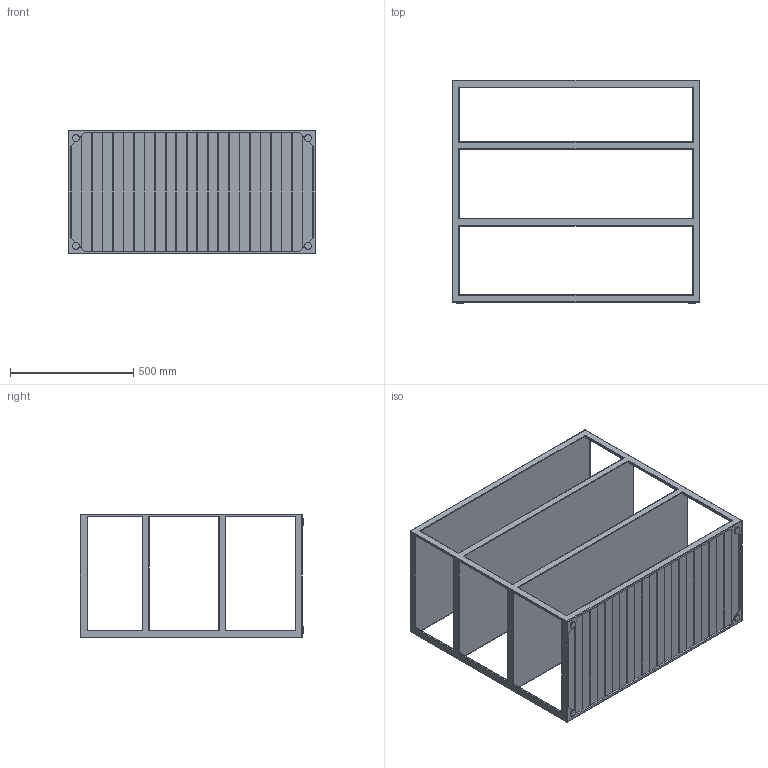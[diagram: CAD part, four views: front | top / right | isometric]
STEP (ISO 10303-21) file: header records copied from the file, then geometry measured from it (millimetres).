
FILE_DESCRIPTION(/* description */ (''),/* implementation_level */ '2;1');
FILE_NAME(/* name */ 'C:\INVENTOR\Workspace\# ARKITEKT FILER\Open Kitchen\OK Side Board 100\Open Kitchen Side Board 100 w Teak.stp',/* time_stamp */ '2020-05-05T08:19:15+02:00',/* author */ ('Röshults'),/* organization */ (''),/* preprocessor_version */ 'ST-DEVELOPER v17.2',/* originating_system */ 'Autodesk Inventor 2019',/* authorisation */ '');
FILE_SCHEMA (('AUTOMOTIVE_DESIGN { 1 0 10303 214 3 1 1 }'));
Length unit declared in the file: millimetre
Products named in the file (3): Open Kitchen Side Board 100 w Teak; Open Kitchen Side Board 100; Teak 100
Assembly tree (2 placements, depth 2):
  Open Kitchen Side Board 100 w Teak
    Open Kitchen Side Board 100
    Teak 100
Bounding box: 1004 x 905 x 500 mm (x, y, z)
Volume: 56666271 mm3; surface area: 5220470.7 mm2
Topology: 24 solids, 24 shells, 333 faces, 756 edges, 468 vertices
Faces by surface type: plane 221, cylinder 104, sphere 8
Full cylindrical faces by diameter (mm): 28 x4
Entity records: 9291 total; most frequent: DIRECTION 1574, CARTESIAN_POINT 1563, ORIENTED_EDGE 1512, EDGE_CURVE 756, LINE 616, VECTOR 616, AXIS2_PLACEMENT_3D 479, VERTEX_POINT 468
